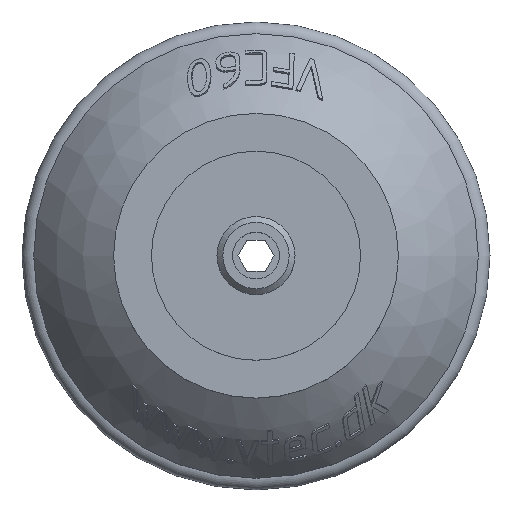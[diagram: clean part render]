
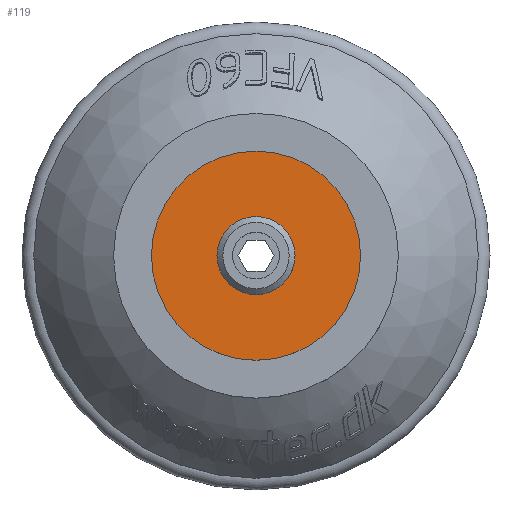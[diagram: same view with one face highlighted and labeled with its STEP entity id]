
A CAD part, top view. The second image highlights one B-rep face of the part: STEP entity #119.
In plain terms, the highlighted planar face has unit normal (0, 0, 1).
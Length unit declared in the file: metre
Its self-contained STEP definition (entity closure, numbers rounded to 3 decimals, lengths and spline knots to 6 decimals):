
#119 = ADVANCED_FACE( '', ( #446, #447 ), #448, .T. );
#446 = FACE_OUTER_BOUND( '', #2556, .T. );
#447 = FACE_BOUND( '', #2557, .T. );
#448 = PLANE( '', #2558 );
#2556 = EDGE_LOOP( '', ( #7076 ) );
#2557 = EDGE_LOOP( '', ( #7077 ) );
#2558 = AXIS2_PLACEMENT_3D( '', #7078, #7079, #7080 );
#7076 = ORIENTED_EDGE( '', *, *, #8368, .T. );
#7077 = ORIENTED_EDGE( '', *, *, #8366, .F. );
#7078 = CARTESIAN_POINT( '', ( 0.00425, 0., 0.00575 ) );
#7079 = DIRECTION( '', ( 0., 0., 1. ) );
#7080 = DIRECTION( '', ( 1., 0., 0. ) );
#8366 = EDGE_CURVE( '', #9179, #9179, #9180, .T. );
#8368 = EDGE_CURVE( '', #9183, #9183, #9184, .T. );
#9179 = VERTEX_POINT( '', #11842 );
#9180 = CIRCLE( '', #11843, 0.00425 );
#9183 = VERTEX_POINT( '', #11846 );
#9184 = CIRCLE( '', #11847, 0.0134 );
#11842 = CARTESIAN_POINT( '', ( 0.00425, 0., 0.00575 ) );
#11843 = AXIS2_PLACEMENT_3D( '', #13673, #13674, #13675 );
#11846 = CARTESIAN_POINT( '', ( 0.0134, 0., 0.00575 ) );
#11847 = AXIS2_PLACEMENT_3D( '', #13679, #13680, #13681 );
#13673 = CARTESIAN_POINT( '', ( 0., 0., 0.00575 ) );
#13674 = DIRECTION( '', ( 0., 0., 1. ) );
#13675 = DIRECTION( '', ( 1., 0., 0. ) );
#13679 = CARTESIAN_POINT( '', ( 0., 0., 0.00575 ) );
#13680 = DIRECTION( '', ( 0., 0., 1. ) );
#13681 = DIRECTION( '', ( 1., 0., 0. ) );
